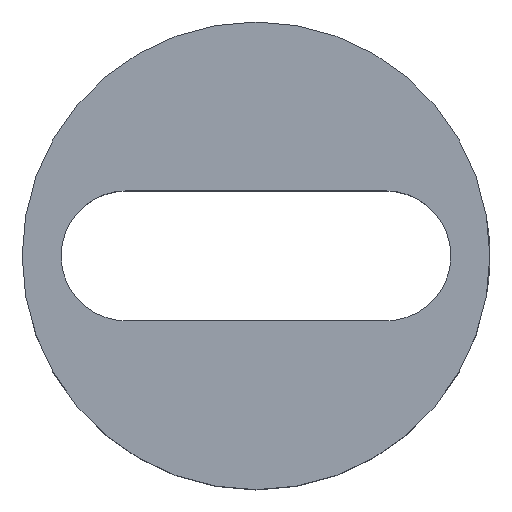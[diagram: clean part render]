
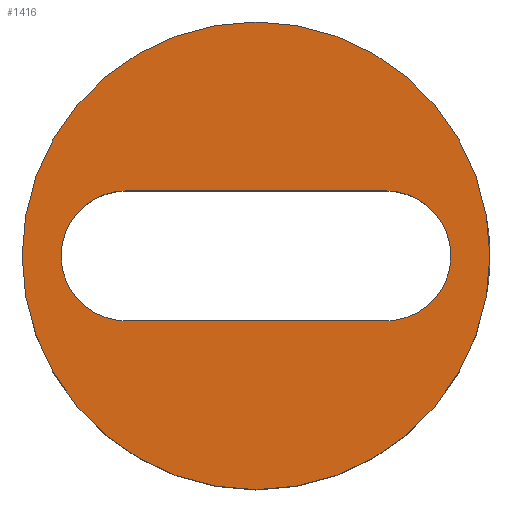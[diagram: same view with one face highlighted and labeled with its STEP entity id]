
A CAD part, top view. The second image highlights one B-rep face of the part: STEP entity #1416.
In plain terms, the highlighted planar face has unit normal (0, 0, 1).
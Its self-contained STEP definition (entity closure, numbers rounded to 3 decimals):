
#7 = CARTESIAN_POINT ( 'NONE',  ( 27., 0., 0. ) ) ;
#13 = DIRECTION ( 'NONE',  ( 1., 0., 0. ) ) ;
#14 = DIRECTION ( 'NONE',  ( 0., 0., 1. ) ) ;
#15 = AXIS2_PLACEMENT_3D ( 'NONE', #52, #14, #13 ) ;
#16 = CIRCLE ( 'NONE', #15, 27. ) ;
#39 = CARTESIAN_POINT ( 'NONE',  ( 15., 0., 0. ) ) ;
#40 = CARTESIAN_POINT ( 'NONE',  ( 15., 7.5, 0. ) ) ;
#52 = CARTESIAN_POINT ( 'NONE',  ( 0., 0., 0. ) ) ;
#54 = DIRECTION ( 'NONE',  ( -1., 0., 0. ) ) ;
#55 = DIRECTION ( 'NONE',  ( 0., 0., 1. ) ) ;
#56 = AXIS2_PLACEMENT_3D ( 'NONE', #39, #55, #54 ) ;
#57 = CIRCLE ( 'NONE', #56, 7.5 ) ;
#75 = VERTEX_POINT ( 'NONE', #1520 ) ;
#93 = VERTEX_POINT ( 'NONE', #40 ) ;
#94 = EDGE_CURVE ( 'NONE', #119, #93, #57, .T. ) ;
#105 = EDGE_CURVE ( 'NONE', #109, #75, #16, .T. ) ;
#109 = VERTEX_POINT ( 'NONE', #7 ) ;
#119 = VERTEX_POINT ( 'NONE', #1570 ) ;
#1136 = FACE_BOUND ( 'NONE', #1463, .T. ) ;
#1197 = DIRECTION ( 'NONE',  ( -1., 0., 0. ) ) ;
#1198 = DIRECTION ( 'NONE',  ( 0., 0., -1. ) ) ;
#1199 = CARTESIAN_POINT ( 'NONE',  ( 0., 0., 0. ) ) ;
#1200 = AXIS2_PLACEMENT_3D ( 'NONE', #1199, #1198, #1197 ) ;
#1201 = PLANE ( 'NONE',  #1200 ) ;
#1202 = FACE_OUTER_BOUND ( 'NONE', #1451, .T. ) ;
#1203 = CARTESIAN_POINT ( 'NONE',  ( 15., 0., 0. ) ) ;
#1204 = AXIS2_PLACEMENT_3D ( 'NONE', #1203, #1255, #1254 ) ;
#1205 = CIRCLE ( 'NONE', #1204, 7.5 ) ;
#1207 = CARTESIAN_POINT ( 'NONE',  ( -15., 7.5, 0. ) ) ;
#1208 = DIRECTION ( 'NONE',  ( -1., 0., 0. ) ) ;
#1209 = VECTOR ( 'NONE', #1208, 1000. ) ;
#1210 = CARTESIAN_POINT ( 'NONE',  ( -15., 7.5, 0. ) ) ;
#1211 = LINE ( 'NONE', #1210, #1209 ) ;
#1218 = CARTESIAN_POINT ( 'NONE',  ( -15., -7.5, 0. ) ) ;
#1219 = DIRECTION ( 'NONE',  ( 1., 0., 0. ) ) ;
#1220 = VECTOR ( 'NONE', #1219, 1000. ) ;
#1221 = CARTESIAN_POINT ( 'NONE',  ( -15., -7.5, 0. ) ) ;
#1222 = LINE ( 'NONE', #1221, #1220 ) ;
#1223 = DIRECTION ( 'NONE',  ( 1., 0., 0. ) ) ;
#1224 = DIRECTION ( 'NONE',  ( 0., 0., 1. ) ) ;
#1225 = CARTESIAN_POINT ( 'NONE',  ( -15., 0., 0. ) ) ;
#1226 = AXIS2_PLACEMENT_3D ( 'NONE', #1225, #1224, #1223 ) ;
#1227 = CIRCLE ( 'NONE', #1226, 7.5 ) ;
#1244 = DIRECTION ( 'NONE',  ( 1., 0., 0. ) ) ;
#1245 = DIRECTION ( 'NONE',  ( 0., 0., 1. ) ) ;
#1246 = CARTESIAN_POINT ( 'NONE',  ( 0., 0., 0. ) ) ;
#1247 = AXIS2_PLACEMENT_3D ( 'NONE', #1246, #1245, #1244 ) ;
#1248 = CIRCLE ( 'NONE', #1247, 27. ) ;
#1253 = CARTESIAN_POINT ( 'NONE',  ( 15., -7.5, 0. ) ) ;
#1254 = DIRECTION ( 'NONE',  ( -1., 0., 0. ) ) ;
#1255 = DIRECTION ( 'NONE',  ( 0., 0., 1. ) ) ;
#1392 = ORIENTED_EDGE ( 'NONE', *, *, #1481, .T. ) ;
#1412 = ORIENTED_EDGE ( 'NONE', *, *, #94, .F. ) ;
#1416 = ADVANCED_FACE ( 'NONE', ( #1136, #1202 ), #1201, .F. ) ;
#1420 = ORIENTED_EDGE ( 'NONE', *, *, #1466, .F. ) ;
#1447 = ORIENTED_EDGE ( 'NONE', *, *, #1448, .F. ) ;
#1448 = EDGE_CURVE ( 'NONE', #1467, #1457, #1227, .T. ) ;
#1451 = EDGE_LOOP ( 'NONE', ( #1454, #1392 ) ) ;
#1454 = ORIENTED_EDGE ( 'NONE', *, *, #105, .T. ) ;
#1456 = EDGE_CURVE ( 'NONE', #1457, #1473, #1222, .T. ) ;
#1457 = VERTEX_POINT ( 'NONE', #1218 ) ;
#1463 = EDGE_LOOP ( 'NONE', ( #1420, #1412, #1471, #1475, #1447 ) ) ;
#1466 = EDGE_CURVE ( 'NONE', #93, #1467, #1211, .T. ) ;
#1467 = VERTEX_POINT ( 'NONE', #1207 ) ;
#1471 = ORIENTED_EDGE ( 'NONE', *, *, #1472, .F. ) ;
#1472 = EDGE_CURVE ( 'NONE', #1473, #119, #1205, .T. ) ;
#1473 = VERTEX_POINT ( 'NONE', #1253 ) ;
#1475 = ORIENTED_EDGE ( 'NONE', *, *, #1456, .F. ) ;
#1481 = EDGE_CURVE ( 'NONE', #75, #109, #1248, .T. ) ;
#1520 = CARTESIAN_POINT ( 'NONE',  ( -27., 0., 0. ) ) ;
#1570 = CARTESIAN_POINT ( 'NONE',  ( 22.5, 0., 0. ) ) ;
